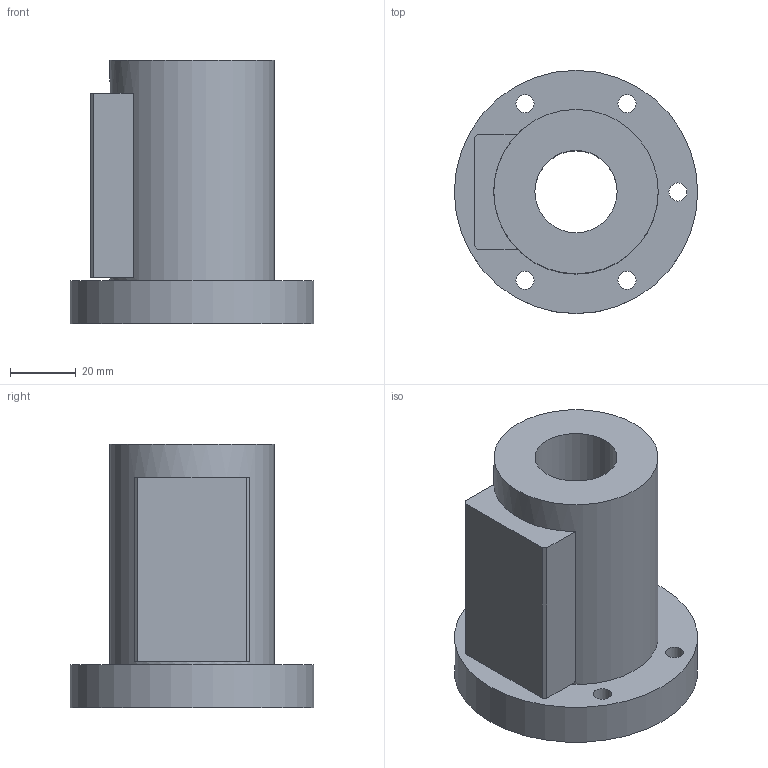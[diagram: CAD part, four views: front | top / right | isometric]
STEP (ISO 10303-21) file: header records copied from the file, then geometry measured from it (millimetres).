
FILE_DESCRIPTION(/* description */ (''),/* implementation_level */ '2;1');
FILE_NAME(/* name */ '25-8B2',/* time_stamp */ '2006-06-16T09:31:42+08:00',/* author */ (''),/* organization */ (''),/* preprocessor_version */ 'ST-DEVELOPER v9',/* originating_system */ 'UGS - NX 4.0',/* authorisation */ '');
FILE_SCHEMA (('CONFIG_CONTROL_DESIGN'));
Length unit declared in the file: millimetre
Products named in the file (1): 25-8B2
Bounding box: 74 x 74 x 80 mm (x, y, z)
Volume: 161423.6 mm3; surface area: 30450.3 mm2
Topology: 1 solids, 1 shells, 28 faces, 61 edges, 42 vertices
Faces by surface type: plane 15, cylinder 13
Full cylindrical faces by diameter (mm): 5.5 x5, 9.5 x5, 25 x1, 50 x1, 74 x1
Entity records: 794 total; most frequent: DIRECTION 130, CARTESIAN_POINT 111, ORIENTED_EDGE 88, EDGE_LOOP 60, AXIS2_PLACEMENT_3D 57, FACE_BOUND 45, EDGE_CURVE 44, VERTEX_POINT 38
